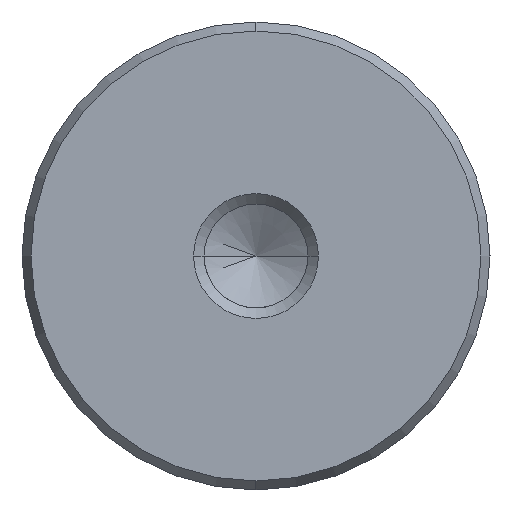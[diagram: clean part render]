
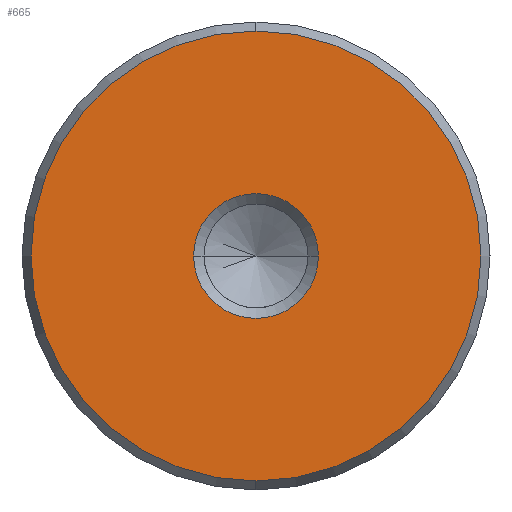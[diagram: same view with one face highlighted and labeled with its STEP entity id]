
A CAD part, left-side view. The second image highlights one B-rep face of the part: STEP entity #665.
In plain terms, the highlighted planar face has unit normal (-1, 0, 0).
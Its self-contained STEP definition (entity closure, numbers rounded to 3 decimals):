
#579=CARTESIAN_POINT('Vertex',(0.,0.,-14.423)) ;
#582=CARTESIAN_POINT('Axis2P3D Location',(0.,0.,0.)) ;
#586=CARTESIAN_POINT('Vertex',(0.,14.423,0.)) ;
#589=CARTESIAN_POINT('Axis2P3D Location',(0.,0.,0.)) ;
#593=CARTESIAN_POINT('Vertex',(0.,0.,14.423)) ;
#615=CARTESIAN_POINT('Axis2P3D Location',(0.,0.,0.)) ;
#619=CARTESIAN_POINT('Vertex',(0.,-14.423,0.)) ;
#622=CARTESIAN_POINT('Axis2P3D Location',(0.,0.,0.)) ;
#636=CARTESIAN_POINT('Axis2P3D Location',(0.,0.,0.)) ;
#647=CARTESIAN_POINT('Axis2P3D Location',(0.,0.,0.)) ;
#651=CARTESIAN_POINT('Vertex',(0.,4.,0.)) ;
#653=CARTESIAN_POINT('Vertex',(0.,-4.,0.)) ;
#656=CARTESIAN_POINT('Axis2P3D Location',(0.,0.,0.)) ;
#583=DIRECTION('Axis2P3D Direction',(1.,0.,-0.)) ;
#590=DIRECTION('Axis2P3D Direction',(1.,0.,-0.)) ;
#616=DIRECTION('Axis2P3D Direction',(1.,0.,-0.)) ;
#623=DIRECTION('Axis2P3D Direction',(1.,0.,-0.)) ;
#637=DIRECTION('Axis2P3D Direction',(1.,0.,-0.)) ;
#638=DIRECTION('Axis2P3D XDirection',(-0.,0.,-1.)) ;
#648=DIRECTION('Axis2P3D Direction',(1.,0.,-0.)) ;
#657=DIRECTION('Axis2P3D Direction',(1.,0.,-0.)) ;
#584=AXIS2_PLACEMENT_3D('Circle Axis2P3D',#582,#583,$) ;
#591=AXIS2_PLACEMENT_3D('Circle Axis2P3D',#589,#590,$) ;
#617=AXIS2_PLACEMENT_3D('Circle Axis2P3D',#615,#616,$) ;
#624=AXIS2_PLACEMENT_3D('Circle Axis2P3D',#622,#623,$) ;
#639=AXIS2_PLACEMENT_3D('Plane Axis2P3D',#636,#637,#638) ;
#649=AXIS2_PLACEMENT_3D('Circle Axis2P3D',#647,#648,$) ;
#658=AXIS2_PLACEMENT_3D('Circle Axis2P3D',#656,#657,$) ;
#642=ORIENTED_EDGE('',*,*,#588,.F.) ;
#643=ORIENTED_EDGE('',*,*,#626,.F.) ;
#644=ORIENTED_EDGE('',*,*,#621,.F.) ;
#645=ORIENTED_EDGE('',*,*,#595,.F.) ;
#662=ORIENTED_EDGE('',*,*,#655,.T.) ;
#663=ORIENTED_EDGE('',*,*,#660,.T.) ;
#664=FACE_BOUND('',#661,.T.) ;
#665=ADVANCED_FACE('720-30x140',(#646,#664),#640,.F.) ;
#585=CIRCLE('generated circle',#584,14.423) ;
#592=CIRCLE('generated circle',#591,14.423) ;
#618=CIRCLE('generated circle',#617,14.423) ;
#625=CIRCLE('generated circle',#624,14.423) ;
#650=CIRCLE('generated circle',#649,4.) ;
#659=CIRCLE('generated circle',#658,4.) ;
#588=EDGE_CURVE('',#580,#587,#585,.T.) ;
#595=EDGE_CURVE('',#587,#594,#592,.T.) ;
#621=EDGE_CURVE('',#594,#620,#618,.T.) ;
#626=EDGE_CURVE('',#620,#580,#625,.T.) ;
#655=EDGE_CURVE('',#652,#654,#650,.T.) ;
#660=EDGE_CURVE('',#654,#652,#659,.T.) ;
#641=EDGE_LOOP('',(#642,#643,#644,#645)) ;
#661=EDGE_LOOP('',(#662,#663)) ;
#646=FACE_OUTER_BOUND('',#641,.T.) ;
#640=PLANE('Plane',#639) ;
#580=VERTEX_POINT('',#579) ;
#587=VERTEX_POINT('',#586) ;
#594=VERTEX_POINT('',#593) ;
#620=VERTEX_POINT('',#619) ;
#652=VERTEX_POINT('',#651) ;
#654=VERTEX_POINT('',#653) ;
